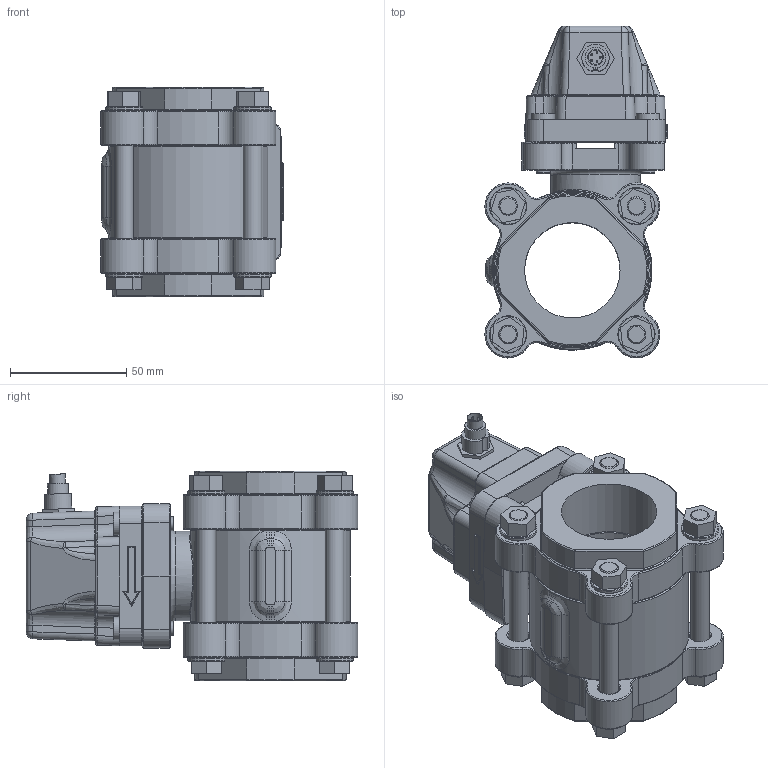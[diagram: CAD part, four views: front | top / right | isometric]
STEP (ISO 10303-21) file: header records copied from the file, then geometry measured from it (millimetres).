
FILE_DESCRIPTION(/* description */ ('Alibre Inc.'),/* implementation_level */ '2;1');
FILE_NAME(/* name */ 'export0',/* time_stamp */ '2013-01-24T15:35:49+01:00',/* author */ (''),/* organization */ (''),/* preprocessor_version */ 'ST-DEVELOPER v14',/* originating_system */ 'Alibre',/* authorisation */ '');
FILE_SCHEMA (('CONFIG_CONTROL_DESIGN'));
Length unit declared in the file: centimetre
Products named in the file (11): ID_1; ID_2; ID_3; ID_4; ID_5; ID_6; ID_7; ID_8; ID_9; ID_10; ID_11
Bounding box: 78.32 x 142.57 x 90 mm (x, y, z)
Volume: 323808.2 mm3; surface area: 114086.6 mm2
Topology: 26 solids, 26 shells, 1037 faces, 2288 edges, 1335 vertices
Faces by surface type: cylinder 312, plane 300, bspline 152, torus 139, cone 96, sphere 38
Full cylindrical faces by diameter (mm): 0.75 x5, 3.198 x4, 6 x12, 6.2 x1, 6.4 x4, 6.5 x4, 6.7 x1, 8 x8, 8.4 x8, 8.9 x1, 9 x8, 9.6 x4, 10 x4, 11 x4, 16 x8, 17.2 x2, 21.1 x2, 32.2 x1, 38.5 x1, 41 x2, 44.8 x1, 51.5 x2
Entity records: 52723 total; most frequent: CARTESIAN_POINT 33874, ORIENTED_EDGE 3524, DIRECTION 3449, EDGE_CURVE 1762, AXIS2_PLACEMENT_3D 1606, VERTEX_POINT 1075, EDGE_LOOP 1019, FACE_BOUND 1019
